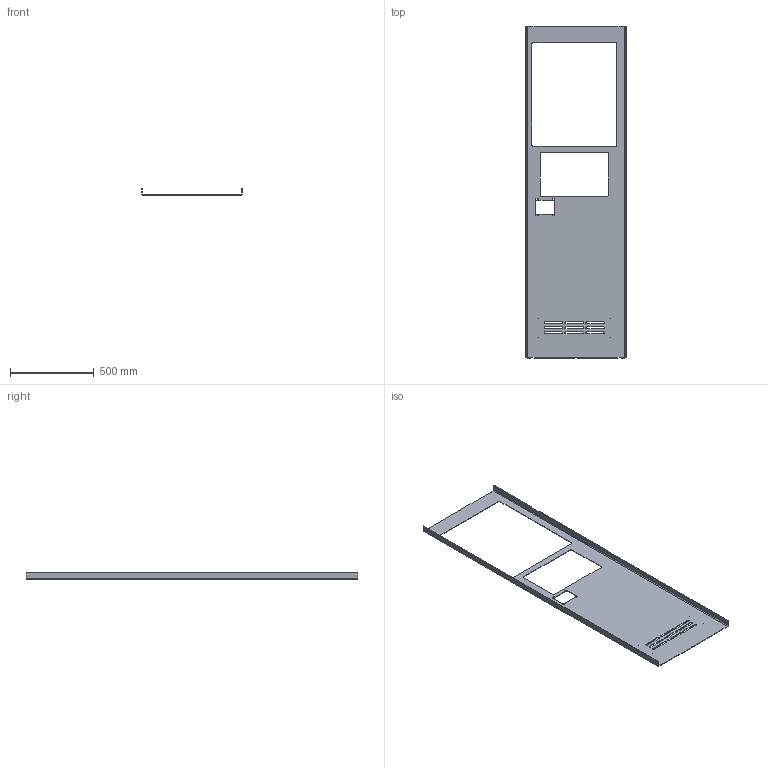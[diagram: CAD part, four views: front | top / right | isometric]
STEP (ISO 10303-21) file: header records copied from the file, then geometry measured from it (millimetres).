
FILE_DESCRIPTION (( 'STEP AP203' ), '1' );
FILE_NAME ('ORW-72.24.20.10.001 Ïîëîòíî.STEP', '2025-10-13T13:18:09', ( 'Àíäðåé' ), ( '' ), 'SwSTEP 2.0', 'SolidWorks 2025', '' );
FILE_SCHEMA (( 'CONFIG_CONTROL_DESIGN' ));
Length unit declared in the file: millimetre
Products named in the file (1): ORW-72.24.20.10.001 Полотно_с дисплеем
Bounding box: 600 x 1988 x 40 mm (x, y, z)
Volume: 2655212.4 mm3; surface area: 1805140.6 mm2
Topology: 1 solids, 1 shells, 154 faces, 440 edges, 288 vertices
Faces by surface type: plane 108, cylinder 46
Full cylindrical faces by diameter (mm): 0.5 x4
Entity records: 5111 total; most frequent: CARTESIAN_POINT 891, ORIENTED_EDGE 872, DIRECTION 826, EDGE_CURVE 436, LINE 332, VECTOR 332, VERTEX_POINT 288, AXIS2_PLACEMENT_3D 247
